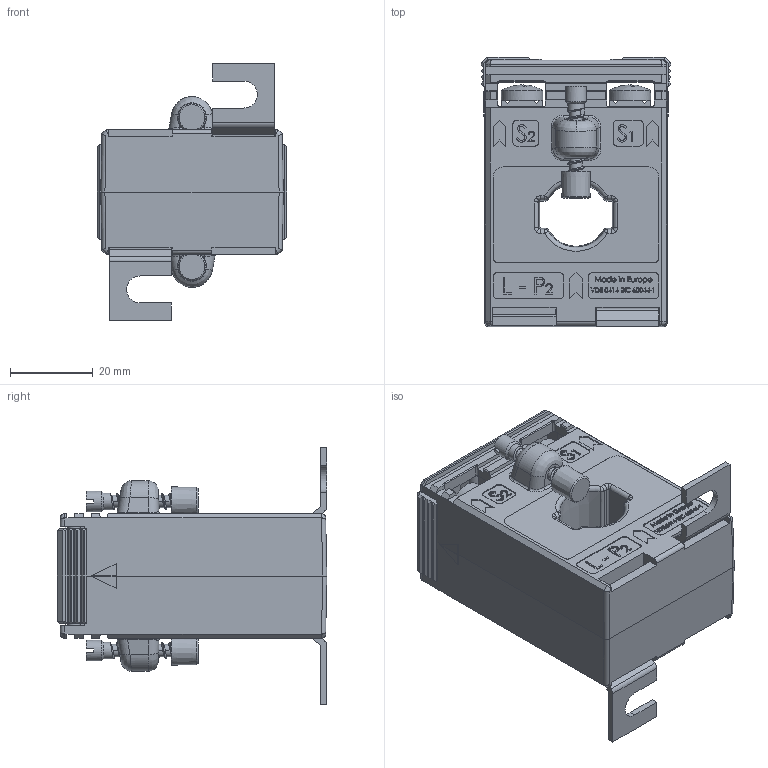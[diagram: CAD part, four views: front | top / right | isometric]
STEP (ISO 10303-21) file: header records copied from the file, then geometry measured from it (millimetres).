
FILE_DESCRIPTION(/* description */ (''),/* implementation_level */ '2;1');
FILE_NAME(/* name */ 'ASK176.3.stp',/* time_stamp */ '2024-03-06T09:58:56+01:00',/* author */ ('JDI'),/* organization */ (''),/* preprocessor_version */ 'ST-DEVELOPER v19.2',/* originating_system */ 'Autodesk Inventor 2023',/* authorisation */ '');
FILE_SCHEMA (('AUTOMOTIVE_DESIGN { 1 0 10303 214 3 1 1 }'));
Products named in the file (1): ASK176.3
Bounding box: 45.6 x 65 x 62 mm (x, y, z)
Volume: 72039.1 mm3; surface area: 24085 mm2
Topology: 1 solids, 1 shells, 1802 faces, 4770 edges, 3062 vertices
Faces by surface type: plane 1162, bspline 358, cylinder 212, cone 38, torus 16, sphere 16
Full cylindrical faces by diameter (mm): 2.95 x2, 3 x22, 3.8 x2, 4 x6, 4.1 x2, 5 x2, 10 x4
Entity records: 79967 total; most frequent: CARTESIAN_POINT 35809, ORIENTED_EDGE 9540, DIRECTION 7466, EDGE_CURVE 4770, LINE 3328, VECTOR 3328, VERTEX_POINT 3062, AXIS2_PLACEMENT_3D 2069
